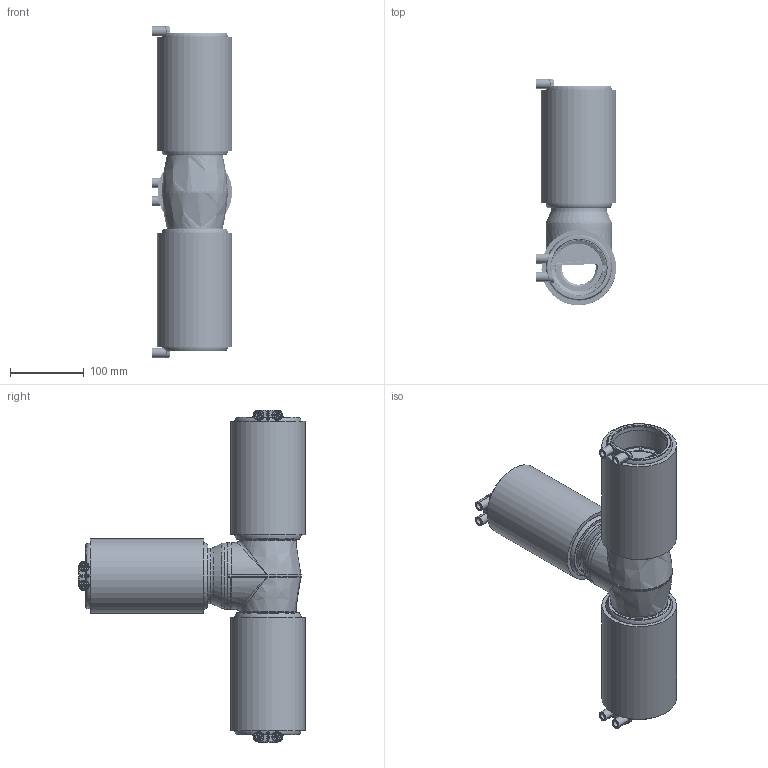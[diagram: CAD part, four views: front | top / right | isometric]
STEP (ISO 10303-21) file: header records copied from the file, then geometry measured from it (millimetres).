
FILE_DESCRIPTION (( 'STEP AP214' ), '1' );
FILE_NAME ('KP 28-75_63SCA.STEP', '2017-02-24T07:37:59', ( '' ), ( '' ), 'SwSTEP 2.0', 'SolidWorks 2017', '' );
FILE_SCHEMA (( 'AUTOMOTIVE_DESIGN' ));
Length unit declared in the file: millimetre
Products named in the file (1): KP 28-75_63SCA
Bounding box: 108.92 x 307.68 x 451.02 mm (x, y, z)
Volume: 2503403.4 mm3; surface area: 820214.1 mm2
Topology: 3 solids, 20 shells, 2599 faces, 6643 edges, 4082 vertices
Faces by surface type: cylinder 805, plane 645, bspline 486, torus 387, cone 159, sphere 117
Full cylindrical faces by diameter (mm): 2 x6, 3 x6, 46 x2, 51.5 x3, 55.2 x3, 61.5 x3, 63 x3, 63.7 x6, 64.119 x3, 75.8 x3, 80.119 x6, 88 x7, 90 x12, 91.2 x3, 101.5 x3
Entity records: 135054 total; most frequent: CARTESIAN_POINT 69377, ORIENTED_EDGE 12402, DIRECTION 10419, EDGE_CURVE 6201, AXIS2_PLACEMENT_3D 4476, VERTEX_POINT 3913, EDGE_LOOP 2924, FACE_OUTER_BOUND 2729
